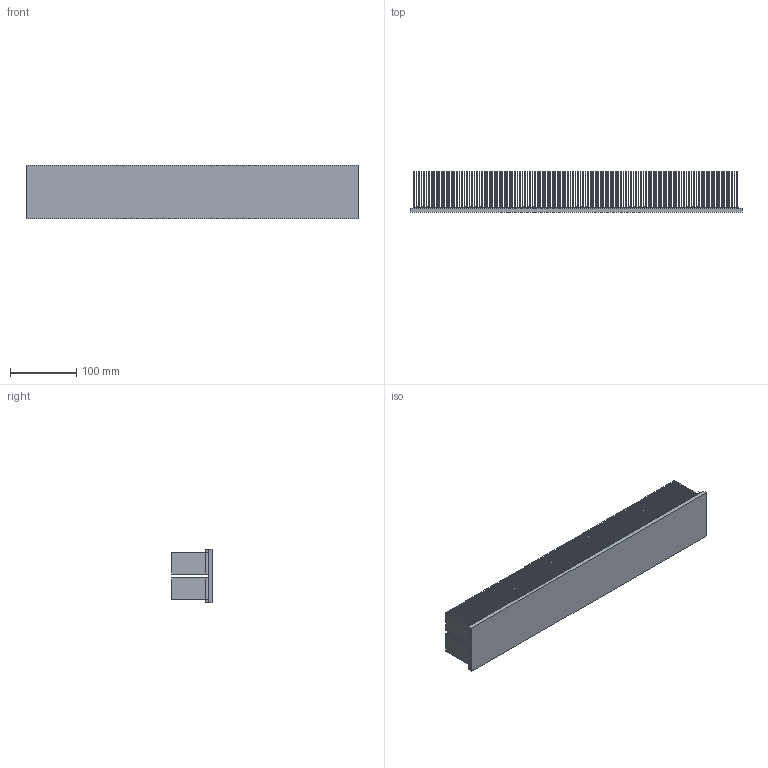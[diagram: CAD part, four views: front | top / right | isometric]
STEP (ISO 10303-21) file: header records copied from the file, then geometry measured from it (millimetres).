
FILE_DESCRIPTION (( 'STEP AP203' ), '1' );
FILE_NAME ('RX616-043-00.STEP', '2026-07-16T03:58:09', ( '' ), ( '' ), 'SwSTEP 2.0', 'SolidWorks 2023', '' );
FILE_SCHEMA (( 'CONFIG_CONTROL_DESIGN' ));
Length unit declared in the file: millimetre
Products named in the file (1): RX616-043-00
Bounding box: 500 x 61 x 80 mm (x, y, z)
Volume: 795011.1 mm3; surface area: 1074761 mm2
Topology: 259 solids, 259 shells, 2074 faces, 4666 edges, 3110 vertices
Faces by surface type: plane 1558, cylinder 516
Entity records: 57109 total; most frequent: CARTESIAN_POINT 9851, DIRECTION 9850, ORIENTED_EDGE 9332, EDGE_CURVE 4666, VECTOR 3632, LINE 3632, VERTEX_POINT 3110, AXIS2_PLACEMENT_3D 3109
